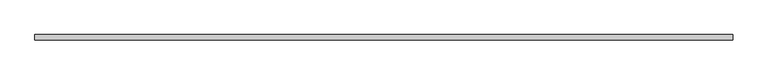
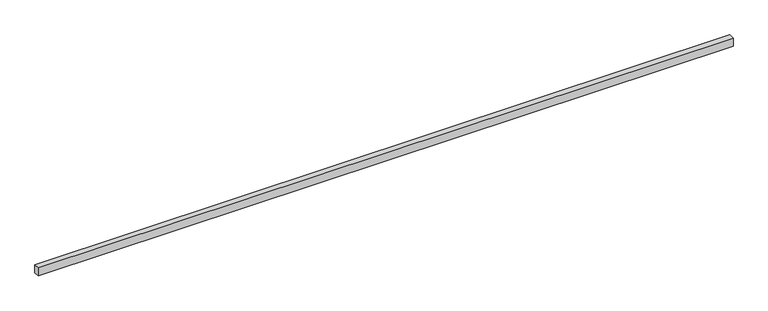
"""IFC4 building model written with IfcOpenShell, lengths in millimetres: proxy geometry, Кабель-каналы_магистральные_цвет-белый : Кабель-канал магистральный 25х16 белый."""

import ifcopenshell
import ifcopenshell.guid

model = None  # the IFC model being written
_history = None  # IfcOwnerHistory: only IFC2X3 demands one
_inside = {}  # id of a spatial element -> (the spatial element, [elements in it])
_under = {}  # id of a project, library or spatial element -> (it, [spatial elements below it])
_declared = {}  # id of a project -> (the project, [libraries it declares])
_typed = {}  # id of a type object -> (the type object, [elements of that type])
_made_of = {}  # id of a material, layer set ... -> (it, [elements and type objects made of it])


def new_model(schema):
    """Start an empty IFC model of exactly this schema.

    Asked for "IFC4X3", IfcOpenShell would pick the latest addendum, in which some entities
    have other attributes; the version numbers below select the first issue.
    IFC2X3 requires an IfcOwnerHistory on every rooted entity: one is made here for all.
    """
    global model, _history
    if schema == "IFC4X3":
        model = ifcopenshell.file(schema_version=(4, 3, 0, 0))
    else:
        model = ifcopenshell.file(schema=schema)
    _inside.clear()
    _under.clear()
    _declared.clear()
    _typed.clear()
    _made_of.clear()
    _history = None
    if model.schema == "IFC2X3":
        org = make("IfcOrganization", Name="unknown")
        user = make(
            "IfcPersonAndOrganization",
            ThePerson=make("IfcPerson", FamilyName="unknown"),
            TheOrganization=org,
        )
        app = make(
            "IfcApplication",
            ApplicationDeveloper=org,
            Version="unknown",
            ApplicationFullName="unknown",
            ApplicationIdentifier="unknown",
        )
        _history = make(
            "IfcOwnerHistory",
            OwningUser=user,
            OwningApplication=app,
            ChangeAction="ADDED",
            CreationDate=0,
        )
    return model


def make(cls, **values):
    """One entity of the class cls with the attributes given. An attribute that is None is left unset."""
    return model.create_entity(
        cls, **{name: value for name, value in values.items() if value is not None}
    )


def rooted(cls, **values):
    """An entity with a GlobalId (a new one), such as an element, a storey or a relation."""
    return make(cls, GlobalId=ifcopenshell.guid.new(), OwnerHistory=_history, **values)


def si_unit(unit_type, name, prefix=None):
    """IfcSIUnit, for example si_unit("LENGTHUNIT", "METRE", prefix="MILLI")."""
    return make("IfcSIUnit", UnitType=unit_type, Prefix=prefix, Name=name)


def assignment(units):
    """IfcUnitAssignment: the units of a project."""
    return None if units is None else make("IfcUnitAssignment", Units=units)


def point(xyz):
    """IfcCartesianPoint."""
    return None if xyz is None else make("IfcCartesianPoint", Coordinates=xyz)


def direction(xyz):
    """IfcDirection."""
    return None if xyz is None else make("IfcDirection", DirectionRatios=xyz)


def frame(location, z_axis=None, x_axis=None):
    """IfcAxis2Placement3D, a coordinate frame: its origin and axes. An axis left out is left unset."""
    return make(
        "IfcAxis2Placement3D",
        Location=point(location),
        Axis=direction(z_axis),
        RefDirection=direction(x_axis),
    )


def origin():
    """The frame at (0, 0, 0) with its axes left unset."""
    return frame((0.0, 0.0, 0.0))


def origin_with_axes():
    """The frame at (0, 0, 0) with the z axis (0, 0, 1) and the x axis (1, 0, 0) written out."""
    return frame((0.0, 0.0, 0.0), z_axis=(0.0, 0.0, 1.0), x_axis=(1.0, 0.0, 0.0))


def place(relative_to, where):
    """IfcLocalPlacement: puts the frame where relative to a parent placement (None: the world)."""
    return make(
        "IfcLocalPlacement", PlacementRelTo=relative_to, RelativePlacement=where
    )


def context(
    kind, dimensions, precision=None, world=None, true_north=None, identifier=None
):
    """IfcGeometricRepresentationContext, for example the 3D "Model" context."""
    return make(
        "IfcGeometricRepresentationContext",
        ContextIdentifier=identifier,
        ContextType=kind,
        CoordinateSpaceDimension=dimensions,
        Precision=precision,
        WorldCoordinateSystem=world,
        TrueNorth=true_north,
    )


def project(units=None, contexts=None):
    """IfcProject with its units and contexts."""
    return rooted(
        "IfcProject",
        Name="project",
        RepresentationContexts=contexts,
        UnitsInContext=assignment(units),
    )


def spatial(cls, under=None, at=None, **own):
    """A site, building, storey or space (cls), placed at a placement, below another one or the project."""
    s = rooted(cls, ObjectPlacement=at, **own)
    if under is not None:
        _under.setdefault(under.id(), (under, []))[1].append(s)
    return s


def polyline(points):
    """IfcPolyline through the points."""
    return make("IfcPolyline", Points=[point(p) for p in points])


def outline(outer, holes=None, kind="AREA"):
    """IfcArbitraryClosedProfileDef: a profile drawn as a closed curve; with holes, ...WithVoids."""
    if holes is None:
        return make("IfcArbitraryClosedProfileDef", ProfileType=kind, OuterCurve=outer)
    return make(
        "IfcArbitraryProfileDefWithVoids",
        ProfileType=kind,
        OuterCurve=outer,
        InnerCurves=holes,
    )


def extrude(swept, where, along, depth):
    """IfcExtrudedAreaSolid: the profile swept, set in the frame where, extruded along a direction by depth."""
    return make(
        "IfcExtrudedAreaSolid",
        SweptArea=swept,
        Position=where,
        ExtrudedDirection=direction(along),
        Depth=depth,
    )


def shape(context_of_items, identifier, shape_type, items):
    """IfcShapeRepresentation: the items that make up one representation, for example the "Body"."""
    return make(
        "IfcShapeRepresentation",
        ContextOfItems=context_of_items,
        RepresentationIdentifier=identifier,
        RepresentationType=shape_type,
        Items=items,
    )


def source(mapping_origin, context_of_items, identifier, shape_type, items):
    """IfcRepresentationMap: a shape defined once, which mapped items show again and again."""
    return make(
        "IfcRepresentationMap",
        MappingOrigin=mapping_origin,
        MappedRepresentation=shape(context_of_items, identifier, shape_type, items),
    )


def transform(
    local_origin,
    x_axis=None,
    y_axis=None,
    z_axis=None,
    scale=None,
    scale2=None,
    scale3=None,
    uniform=True,
):
    """IfcCartesianTransformationOperator3D, or its non-uniform kind. x_axis, y_axis, z_axis: its Axis1, 2, 3."""
    if uniform:
        return make(
            "IfcCartesianTransformationOperator3D",
            Axis1=direction(x_axis),
            Axis2=direction(y_axis),
            LocalOrigin=point(local_origin),
            Scale=scale,
            Axis3=direction(z_axis),
        )
    return make(
        "IfcCartesianTransformationOperator3DnonUniform",
        Axis1=direction(x_axis),
        Axis2=direction(y_axis),
        LocalOrigin=point(local_origin),
        Scale=scale,
        Axis3=direction(z_axis),
        Scale2=scale2,
        Scale3=scale3,
    )


def mapped(mapping_source, mapping_target):
    """IfcMappedItem: shows the shape of a source again, moved by a transform."""
    return make(
        "IfcMappedItem", MappingSource=mapping_source, MappingTarget=mapping_target
    )


def made_of(thing, what):
    """Note that an element or type object is made of a material, layer set ...; save() writes the relation."""
    if what is not None:
        _made_of.setdefault(what.id(), (what, []))[1].append(thing)
    return thing


def element(
    cls,
    number,
    at=None,
    inside=None,
    cuts=None,
    type_object=None,
    material=None,
    context=None,
    identifier="Body",
    shape_type=None,
    held_by="IfcProductDefinitionShape",
    body=None,
    shapes=None,
    **own,
):
    """One element of the class cls, such as IfcWall. Its Tag is "e" and its number.

    at: its placement. inside: the storey or other place that contains it. cuts: it is an
    opening in that element (IfcRelVoidsElement). A single representation is given by context,
    identifier, shape_type and body (its items); several are given by shapes. held_by: the class
    of the entity that holds the representations. save() writes the other relations.
    """
    e = rooted(cls, Tag="e%d" % number, ObjectPlacement=at, **own)
    if body is not None:
        shapes = [shape(context, identifier, shape_type, body)]
    if shapes is not None:
        e.Representation = make(held_by, Representations=shapes)
    if inside is not None:
        _inside.setdefault(inside.id(), (inside, []))[1].append(e)
    if cuts is not None:
        rooted(
            "IfcRelVoidsElement", RelatingBuildingElement=cuts, RelatedOpeningElement=e
        )
    if type_object is not None:
        _typed.setdefault(type_object.id(), (type_object, []))[1].append(e)
    return made_of(e, material)


def aggregate(whole, parts):
    """IfcRelAggregates: a whole, such as a stair, and the parts it consists of."""
    return rooted("IfcRelAggregates", RelatingObject=whole, RelatedObjects=parts)


def save(model, path):
    """Write the relations noted so far, then the file.

    IfcRelAggregates (storeys below a building ...), IfcRelContainedInSpatialStructure (elements
    in a storey), IfcRelDefinesByType, IfcRelAssociatesMaterial and IfcRelDeclares: one each for
    every whole, place, type object, material and project.
    """
    for whole, parts in _under.values():
        aggregate(whole, parts)
    for where, things in _inside.values():
        rooted(
            "IfcRelContainedInSpatialStructure",
            RelatedElements=things,
            RelatingStructure=where,
        )
    for kind, things in _typed.values():
        rooted("IfcRelDefinesByType", RelatedObjects=things, RelatingType=kind)
    for what, things in _made_of.values():
        rooted("IfcRelAssociatesMaterial", RelatedObjects=things, RelatingMaterial=what)
    for by, libraries in _declared.values():
        rooted("IfcRelDeclares", RelatingContext=by, RelatedDefinitions=libraries)
    model.write(path)


def generic_models_c4528041(model_context):
    return source(origin(), model_context, "Body", "SweptSolid", [
        extrude(outline(polyline([(2000.0, -16.0), (0.0, -16.0), (0.0, 0.0), (2000.0, 0.0), (2000.0, -16.0)])), origin_with_axes(), (0.0, 0.0, 1.0), 25.0),
    ])


if __name__ == "__main__":
    model = new_model("IFC4")
    model_context = context("Model", 3, world=origin())
    ifc_project = project(units=[si_unit("LENGTHUNIT", "METRE", prefix="MILLI")], contexts=[model_context])
    site = spatial("IfcSite", under=ifc_project)
    building = spatial("IfcBuilding", under=site)
    placement = place(None, origin())
    generic_models_shape = generic_models_c4528041(model_context)
    element("IfcBuildingElementProxy", 1, Name="Кабель-каналы_магистральные_цвет-белый : Кабель-канал магистральный 25х16 белый", ObjectType="Кабель-каналы_магистральные_цвет-белый : Кабель-канал магистральный 25х16 белый", at=placement, inside=building, context=model_context, shape_type="MappedRepresentation", body=[
        mapped(generic_models_shape, transform((0.0, 0.0, 0.0), x_axis=(1.0, 0.0, 0.0), y_axis=(0.0, 1.0, 0.0), z_axis=(0.0, 0.0, 1.0))),
    ])
    save(model, "model.ifc")
